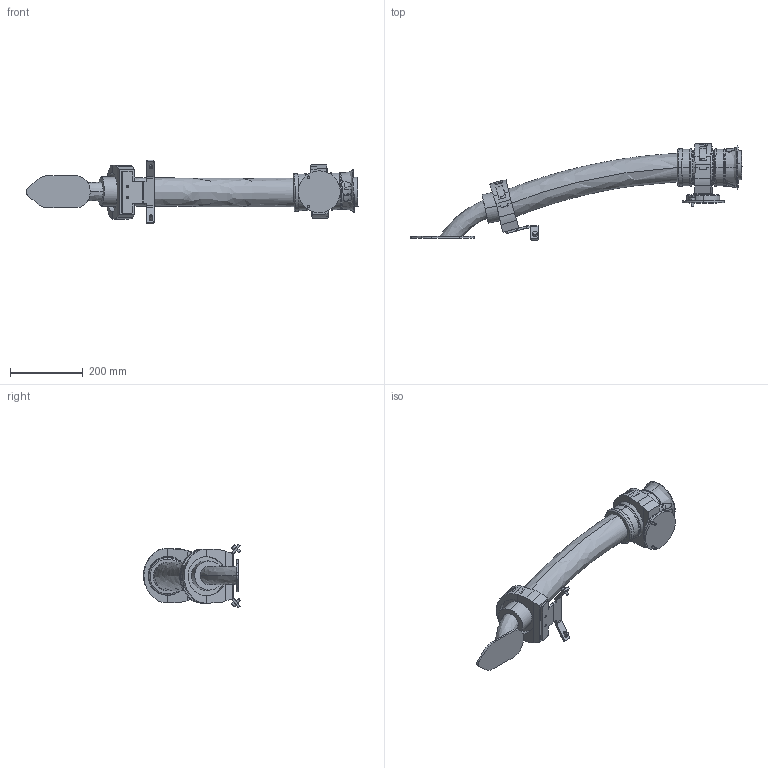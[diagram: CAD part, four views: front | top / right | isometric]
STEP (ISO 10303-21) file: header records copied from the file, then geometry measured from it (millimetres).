
FILE_DESCRIPTION (( 'STEP AP214' ), '1' );
FILE_NAME ('IRB6720-LID_215kg-265_OC_00_LINK04_CABLE.step', '2026-05-26T08:19:53', ( '' ), ( '' ), 'SwSTEP 2.0', 'SolidWorks 2024', '' );
FILE_SCHEMA (( 'AUTOMOTIVE_DESIGN' ));
Length unit declared in the file: millimetre
Products named in the file (1): IRB6720-LID_215kg-265_OC_00_LINK04_CABLE
Bounding box: 910.23 x 265.93 x 174.65 mm (x, y, z)
Volume: 5341043.8 mm3; surface area: 405410.8 mm2
Topology: 1 solids, 1 shells, 423 faces, 1054 edges, 670 vertices
Faces by surface type: plane 223, cylinder 134, bspline 23, cone 22, torus 17, sphere 4
Entity records: 21414 total; most frequent: CARTESIAN_POINT 6786, ORIENTED_EDGE 2108, DIRECTION 2048, EDGE_CURVE 1054, AXIS2_PLACEMENT_3D 758, VERTEX_POINT 670, VECTOR 532, LINE 532
